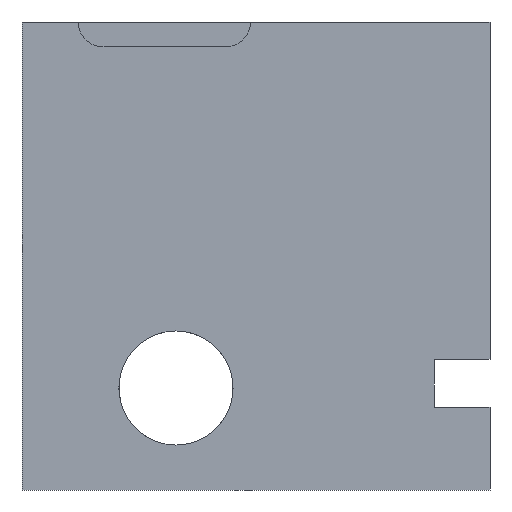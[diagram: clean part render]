
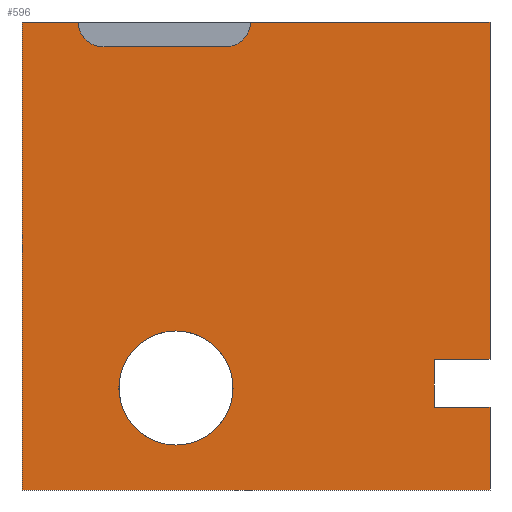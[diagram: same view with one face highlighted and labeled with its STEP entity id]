
A CAD part, left-side view. The second image highlights one B-rep face of the part: STEP entity #596.
In plain terms, the highlighted planar face has unit normal (-1, 0, 0).
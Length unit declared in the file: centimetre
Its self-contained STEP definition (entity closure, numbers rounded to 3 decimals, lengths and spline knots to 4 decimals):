
#2 = DIRECTION ( 'NONE',  ( 0., 0., -1. ) ) ;
#18 = DIRECTION ( 'NONE',  ( 0., -1., 0. ) ) ;
#19 = DIRECTION ( 'NONE',  ( 0., -1., 0. ) ) ;
#28 = AXIS2_PLACEMENT_3D ( 'NONE', #1192, #973, #2 ) ;
#91 = CARTESIAN_POINT ( 'NONE',  ( 0., 1000., 1000. ) ) ;
#99 = CARTESIAN_POINT ( 'NONE',  ( 0., 0., 176.3954 ) ) ;
#100 = DIRECTION ( 'NONE',  ( 0., 0., 1. ) ) ;
#110 = DIRECTION ( 'NONE',  ( 0., 0., 1. ) ) ;
#116 = CARTESIAN_POINT ( 'NONE',  ( 0., 671.0132, 95.9644 ) ) ;
#122 = DIRECTION ( 'NONE',  ( 0., 0., -1. ) ) ;
#128 = CARTESIAN_POINT ( 'NONE',  ( 0., 1000., 1000. ) ) ;
#141 = VERTEX_POINT ( 'NONE', #224 ) ;
#167 = EDGE_CURVE ( 'NONE', #1009, #840, #485, .T. ) ;
#168 = ORIENTED_EDGE ( 'NONE', *, *, #1273, .F. ) ;
#171 = EDGE_CURVE ( 'NONE', #330, #766, #786, .T. ) ;
#191 = CARTESIAN_POINT ( 'NONE',  ( 0., 1000., 1000. ) ) ;
#192 = EDGE_CURVE ( 'NONE', #279, #330, #293, .T. ) ;
#201 = EDGE_CURVE ( 'NONE', #1098, #337, #682, .T. ) ;
#212 = VECTOR ( 'NONE', #352, 100. ) ;
#213 = VECTOR ( 'NONE', #385, 100. ) ;
#223 = EDGE_CURVE ( 'NONE', #141, #848, #745, .T. ) ;
#224 = CARTESIAN_POINT ( 'NONE',  ( 0., 671.0132, 339.8424 ) ) ;
#226 = CARTESIAN_POINT ( 'NONE',  ( 0., 118.8323, 176.3954 ) ) ;
#230 = ORIENTED_EDGE ( 'NONE', *, *, #1049, .F. ) ;
#241 = ORIENTED_EDGE ( 'NONE', *, *, #414, .F. ) ;
#243 = VERTEX_POINT ( 'NONE', #778 ) ;
#251 = CARTESIAN_POINT ( 'NONE',  ( 0., 0., 0. ) ) ;
#268 = ORIENTED_EDGE ( 'NONE', *, *, #192, .F. ) ;
#273 = CARTESIAN_POINT ( 'NONE',  ( 0., 879.9946, 1000. ) ) ;
#278 = ORIENTED_EDGE ( 'NONE', *, *, #1062, .F. ) ;
#279 = VERTEX_POINT ( 'NONE', #273 ) ;
#287 = CARTESIAN_POINT ( 'NONE',  ( 0., 671.0132, 217.9034 ) ) ;
#288 = CARTESIAN_POINT ( 'NONE',  ( 0., 671.0132, 217.9034 ) ) ;
#293 = CIRCLE ( 'NONE', #28, 53.0707 ) ;
#303 = EDGE_CURVE ( 'NONE', #932, #709, #1061, .T. ) ;
#330 = VERTEX_POINT ( 'NONE', #1239 ) ;
#333 = LINE ( 'NONE', #128, #768 ) ;
#336 = VECTOR ( 'NONE', #548, 100. ) ;
#337 = VERTEX_POINT ( 'NONE', #521 ) ;
#346 = ORIENTED_EDGE ( 'NONE', *, *, #553, .F. ) ;
#352 = DIRECTION ( 'NONE',  ( 0., -1., 0. ) ) ;
#364 = CARTESIAN_POINT ( 'NONE',  ( 0., 118.8323, 176.3954 ) ) ;
#382 = EDGE_CURVE ( 'NONE', #337, #654, #941, .T. ) ;
#385 = DIRECTION ( 'NONE',  ( 0., 0., -1. ) ) ;
#396 = VECTOR ( 'NONE', #495, 100. ) ;
#414 = EDGE_CURVE ( 'NONE', #848, #141, #678, .T. ) ;
#415 = VECTOR ( 'NONE', #928, 100. ) ;
#439 = VECTOR ( 'NONE', #18, 100. ) ;
#443 = AXIS2_PLACEMENT_3D ( 'NONE', #612, #1194, #1095 ) ;
#450 = FACE_OUTER_BOUND ( 'NONE', #1142, .T. ) ;
#456 = PLANE ( 'NONE',  #829 ) ;
#485 = LINE ( 'NONE', #99, #888 ) ;
#495 = DIRECTION ( 'NONE',  ( 0., 0., -1. ) ) ;
#517 = AXIS2_PLACEMENT_3D ( 'NONE', #287, #580, #110 ) ;
#521 = CARTESIAN_POINT ( 'NONE',  ( 0., 1000., 0. ) ) ;
#548 = DIRECTION ( 'NONE',  ( 0., -1., 0. ) ) ;
#550 = LINE ( 'NONE', #364, #804 ) ;
#553 = EDGE_CURVE ( 'NONE', #976, #1009, #550, .T. ) ;
#565 = VECTOR ( 'NONE', #122, 100. ) ;
#580 = DIRECTION ( 'NONE',  ( -1., 0., 0. ) ) ;
#596 = ADVANCED_FACE ( 'NONE', ( #945, #450 ), #456, .F. ) ;
#605 = ORIENTED_EDGE ( 'NONE', *, *, #382, .T. ) ;
#606 = CARTESIAN_POINT ( 'NONE',  ( 0., 0., 1000. ) ) ;
#612 = CARTESIAN_POINT ( 'NONE',  ( 0., 564.9412, 1000. ) ) ;
#625 = ORIENTED_EDGE ( 'NONE', *, *, #201, .T. ) ;
#633 = DIRECTION ( 'NONE',  ( 0., 0., -1. ) ) ;
#634 = CARTESIAN_POINT ( 'NONE',  ( 0., 0., 278.8465 ) ) ;
#654 = VERTEX_POINT ( 'NONE', #251 ) ;
#655 = ORIENTED_EDGE ( 'NONE', *, *, #223, .F. ) ;
#678 = CIRCLE ( 'NONE', #1058, 121.939 ) ;
#682 = LINE ( 'NONE', #91, #396 ) ;
#709 = VERTEX_POINT ( 'NONE', #1173 ) ;
#717 = EDGE_LOOP ( 'NONE', ( #655, #241 ) ) ;
#726 = CARTESIAN_POINT ( 'NONE',  ( 0., 1000., 0. ) ) ;
#727 = ORIENTED_EDGE ( 'NONE', *, *, #1031, .F. ) ;
#733 = EDGE_CURVE ( 'NONE', #709, #243, #1055, .T. ) ;
#745 = CIRCLE ( 'NONE', #517, 121.939 ) ;
#755 = ORIENTED_EDGE ( 'NONE', *, *, #303, .F. ) ;
#766 = VERTEX_POINT ( 'NONE', #771 ) ;
#767 = CARTESIAN_POINT ( 'NONE',  ( 0., 0., 1000. ) ) ;
#768 = VECTOR ( 'NONE', #19, 100. ) ;
#770 = ORIENTED_EDGE ( 'NONE', *, *, #167, .F. ) ;
#771 = CARTESIAN_POINT ( 'NONE',  ( 0., 564.9412, 946.9293 ) ) ;
#778 = CARTESIAN_POINT ( 'NONE',  ( 0., 0., 278.8465 ) ) ;
#786 = LINE ( 'NONE', #795, #439 ) ;
#795 = CARTESIAN_POINT ( 'NONE',  ( 0., 564.9412, 946.9293 ) ) ;
#804 = VECTOR ( 'NONE', #633, 100. ) ;
#829 = AXIS2_PLACEMENT_3D ( 'NONE', #956, #1232, #1237 ) ;
#834 = ORIENTED_EDGE ( 'NONE', *, *, #733, .F. ) ;
#840 = VERTEX_POINT ( 'NONE', #1094 ) ;
#848 = VERTEX_POINT ( 'NONE', #116 ) ;
#888 = VECTOR ( 'NONE', #1071, 100. ) ;
#928 = DIRECTION ( 'NONE',  ( 0., 1., 0. ) ) ;
#932 = VERTEX_POINT ( 'NONE', #1115 ) ;
#941 = LINE ( 'NONE', #726, #212 ) ;
#945 = FACE_BOUND ( 'NONE', #717, .T. ) ;
#953 = CARTESIAN_POINT ( 'NONE',  ( 0., 1000., 1000. ) ) ;
#956 = CARTESIAN_POINT ( 'NONE',  ( 0., 1000., 1000. ) ) ;
#973 = DIRECTION ( 'NONE',  ( -1., 0., 0. ) ) ;
#976 = VERTEX_POINT ( 'NONE', #1006 ) ;
#1006 = CARTESIAN_POINT ( 'NONE',  ( 0., 118.8323, 278.8465 ) ) ;
#1009 = VERTEX_POINT ( 'NONE', #226 ) ;
#1031 = EDGE_CURVE ( 'NONE', #766, #932, #1126, .T. ) ;
#1049 = EDGE_CURVE ( 'NONE', #1098, #279, #333, .T. ) ;
#1055 = LINE ( 'NONE', #767, #213 ) ;
#1058 = AXIS2_PLACEMENT_3D ( 'NONE', #288, #1169, #100 ) ;
#1061 = LINE ( 'NONE', #953, #336 ) ;
#1062 = EDGE_CURVE ( 'NONE', #840, #654, #1188, .T. ) ;
#1071 = DIRECTION ( 'NONE',  ( 0., -1., 0. ) ) ;
#1094 = CARTESIAN_POINT ( 'NONE',  ( 0., 0., 176.3954 ) ) ;
#1095 = DIRECTION ( 'NONE',  ( 0., 0., -1. ) ) ;
#1098 = VERTEX_POINT ( 'NONE', #191 ) ;
#1115 = CARTESIAN_POINT ( 'NONE',  ( 0., 511.8704, 1000. ) ) ;
#1122 = ORIENTED_EDGE ( 'NONE', *, *, #171, .F. ) ;
#1126 = CIRCLE ( 'NONE', #443, 53.0707 ) ;
#1142 = EDGE_LOOP ( 'NONE', ( #278, #770, #346, #168, #834, #755, #727, #1122, #268, #230, #625, #605 ) ) ;
#1169 = DIRECTION ( 'NONE',  ( -1., 0., 0. ) ) ;
#1173 = CARTESIAN_POINT ( 'NONE',  ( 0., 0., 1000. ) ) ;
#1188 = LINE ( 'NONE', #606, #565 ) ;
#1192 = CARTESIAN_POINT ( 'NONE',  ( 0., 826.9239, 1000. ) ) ;
#1194 = DIRECTION ( 'NONE',  ( -1., 0., 0. ) ) ;
#1204 = LINE ( 'NONE', #634, #415 ) ;
#1232 = DIRECTION ( 'NONE',  ( 1., 0., 0. ) ) ;
#1237 = DIRECTION ( 'NONE',  ( 0., 0., -1. ) ) ;
#1239 = CARTESIAN_POINT ( 'NONE',  ( 0., 826.9239, 946.9293 ) ) ;
#1273 = EDGE_CURVE ( 'NONE', #243, #976, #1204, .T. ) ;
